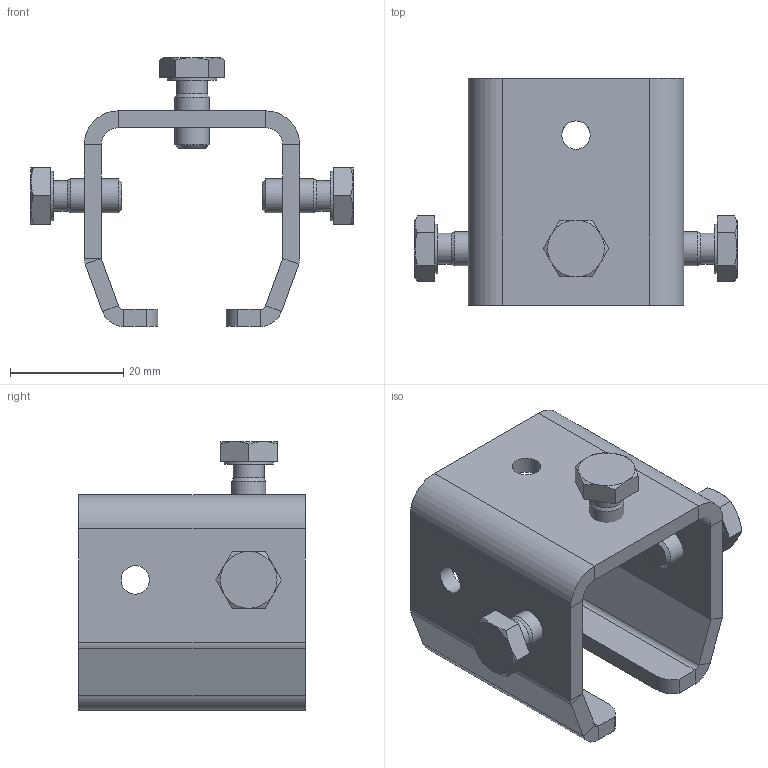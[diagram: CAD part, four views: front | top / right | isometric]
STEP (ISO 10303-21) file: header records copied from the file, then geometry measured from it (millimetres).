
FILE_DESCRIPTION(/* description */ ('Muffe Nr.0_kurz'),/* implementation_level */ '2;1');
FILE_NAME(/* name */ 'Q:\sge-ma\Produktmanagement-STB\STB\Workspace\stp\010335208.stp',/* time_stamp */ '2016-07-12T10:59:23+02:00',/* author */ ('avschreier'),/* organization */ (''),/* preprocessor_version */ 'ST-DEVELOPER v16.1',/* originating_system */ 'Autodesk Inventor 2016',/* authorisation */ '');
FILE_SCHEMA (('AUTOMOTIVE_DESIGN { 1 0 10303 214 3 1 1 }'));
Length unit declared in the file: millimetre
Products named in the file (3): 335140000; DIN_EN_ISO_4017-M6x12_en; 010335208
Assembly tree (4 placements, depth 2):
  010335208
    335140000
    DIN_EN_ISO_4017-M6x12_en  x3
Bounding box: 56.77 x 40 x 47.39 mm (x, y, z)
Volume: 15642.6 mm3; surface area: 11899.5 mm2
Topology: 4 solids, 4 shells, 127 faces, 267 edges, 154 vertices
Faces by surface type: plane 72, cylinder 31, cone 24
Full cylindrical faces by diameter (mm): 4.917 x3, 5 x3, 5.459 x3, 6 x3, 8.7 x3
Entity records: 2260 total; most frequent: DIRECTION 398, CARTESIAN_POINT 386, ORIENTED_EDGE 338, EDGE_CURVE 169, AXIS2_PLACEMENT_3D 149, EDGE_LOOP 110, VERTEX_POINT 101, LINE 100
